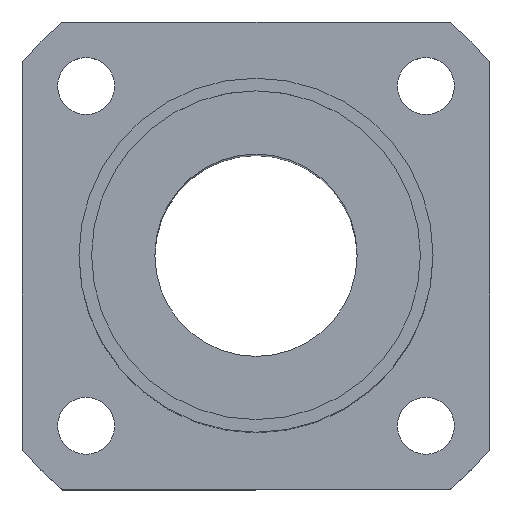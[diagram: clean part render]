
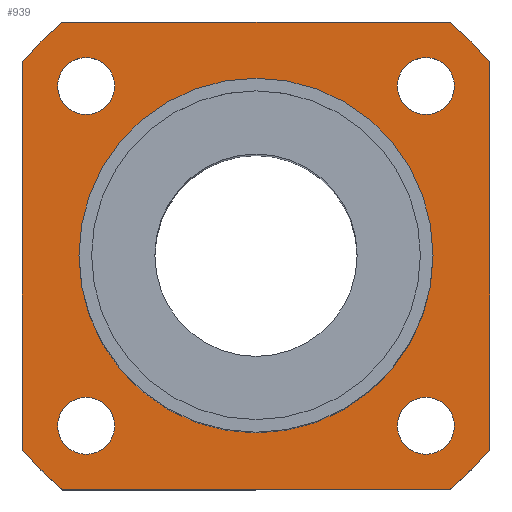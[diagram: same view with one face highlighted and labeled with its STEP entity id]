
A CAD part, top view. The second image highlights one B-rep face of the part: STEP entity #939.
In plain terms, the highlighted planar face has unit normal (0, 0, 1).
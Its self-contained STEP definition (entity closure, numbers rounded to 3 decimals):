
#49=CARTESIAN_POINT('',(-16.58,9.934,38.0));
#50=VERTEX_POINT('',#49);
#59=CARTESIAN_POINT('',(11.42,9.934,38.));
#60=VERTEX_POINT('',#59);
#61=CARTESIAN_POINT('',(-2.58,9.934,38.));
#62=DIRECTION('',(0.0,0.0,1.0));
#63=DIRECTION('',(-1.0,0.0,0.0));
#64=AXIS2_PLACEMENT_3D('',#61,#62,#63);
#65=CIRCLE('',#64,14.);
#66=EDGE_CURVE('',#50,#60,#65,.T.);
#259=CARTESIAN_POINT('',(-13.765,23.369,38.));
#260=VERTEX_POINT('',#259);
#269=CARTESIAN_POINT('',(-18.265,23.369,38.));
#270=VERTEX_POINT('',#269);
#271=CARTESIAN_POINT('',(-16.015,23.369,38.));
#272=DIRECTION('',(0.0,0.0,-1.0));
#273=DIRECTION('',(1.0,0.0,0.0));
#274=AXIS2_PLACEMENT_3D('',#271,#272,#273);
#275=CIRCLE('',#274,2.25);
#276=EDGE_CURVE('',#270,#260,#275,.T.);
#343=CARTESIAN_POINT('',(10.855,21.119,38.));
#344=VERTEX_POINT('',#343);
#353=CARTESIAN_POINT('',(10.855,25.619,38.));
#354=VERTEX_POINT('',#353);
#355=CARTESIAN_POINT('',(10.855,23.369,38.));
#356=DIRECTION('',(0.0,0.0,-1.0));
#357=DIRECTION('',(0.0,-1.0,0.0));
#358=AXIS2_PLACEMENT_3D('',#355,#356,#357);
#359=CIRCLE('',#358,2.25);
#360=EDGE_CURVE('',#354,#344,#359,.T.);
#427=CARTESIAN_POINT('',(8.605,-3.501,38.));
#428=VERTEX_POINT('',#427);
#437=CARTESIAN_POINT('',(13.105,-3.501,38.));
#438=VERTEX_POINT('',#437);
#439=CARTESIAN_POINT('',(10.855,-3.501,38.));
#440=DIRECTION('',(0.0,0.0,-1.0));
#441=DIRECTION('',(-1.0,0.0,0.0));
#442=AXIS2_PLACEMENT_3D('',#439,#440,#441);
#443=CIRCLE('',#442,2.25);
#444=EDGE_CURVE('',#438,#428,#443,.T.);
#511=CARTESIAN_POINT('',(-16.015,-1.251,38.));
#512=VERTEX_POINT('',#511);
#521=CARTESIAN_POINT('',(-16.015,-5.751,38.));
#522=VERTEX_POINT('',#521);
#523=CARTESIAN_POINT('',(-16.015,-3.501,38.));
#524=DIRECTION('',(0.0,0.0,-1.0));
#525=DIRECTION('',(0.0,1.0,0.0));
#526=AXIS2_PLACEMENT_3D('',#523,#524,#525);
#527=CIRCLE('',#526,2.25);
#528=EDGE_CURVE('',#522,#512,#527,.T.);
#642=CARTESIAN_POINT('',(-16.015,-3.501,38.));
#643=DIRECTION('',(0.0,0.0,-1.0));
#644=DIRECTION('',(0.0,1.0,0.0));
#645=AXIS2_PLACEMENT_3D('',#642,#643,#644);
#646=CIRCLE('',#645,2.25);
#647=EDGE_CURVE('',#512,#522,#646,.T.);
#704=CARTESIAN_POINT('',(10.855,-3.501,38.));
#705=DIRECTION('',(0.0,0.0,-1.0));
#706=DIRECTION('',(-1.0,0.0,0.0));
#707=AXIS2_PLACEMENT_3D('',#704,#705,#706);
#708=CIRCLE('',#707,2.25);
#709=EDGE_CURVE('',#428,#438,#708,.T.);
#766=CARTESIAN_POINT('',(10.855,23.369,38.));
#767=DIRECTION('',(0.0,0.0,-1.0));
#768=DIRECTION('',(0.0,-1.0,0.0));
#769=AXIS2_PLACEMENT_3D('',#766,#767,#768);
#770=CIRCLE('',#769,2.25);
#771=EDGE_CURVE('',#344,#354,#770,.T.);
#828=CARTESIAN_POINT('',(-16.015,23.369,38.));
#829=DIRECTION('',(0.0,0.0,-1.0));
#830=DIRECTION('',(1.0,0.0,0.0));
#831=AXIS2_PLACEMENT_3D('',#828,#829,#830);
#832=CIRCLE('',#831,2.25);
#833=EDGE_CURVE('',#260,#270,#832,.T.);
#838=CARTESIAN_POINT('',(-2.58,9.934,38.));
#839=DIRECTION('',(0.0,0.0,1.0));
#840=DIRECTION('',(1.0,0.0,0.0));
#841=AXIS2_PLACEMENT_3D('',#838,#839,#840);
#842=PLANE('',#841);
#843=CARTESIAN_POINT('',(12.709,-8.566,38.0));
#844=VERTEX_POINT('',#843);
#845=CARTESIAN_POINT('',(-17.868,-8.566,38.0));
#846=VERTEX_POINT('',#845);
#847=CARTESIAN_POINT('',(12.709,-8.566,38.0));
#848=DIRECTION('',(-1.0,0.0,0.0));
#849=VECTOR('',#848,30.578);
#850=LINE('',#847,#849);
#851=EDGE_CURVE('',#844,#846,#850,.T.);
#852=ORIENTED_EDGE('',*,*,#851,.F.);
#853=CARTESIAN_POINT('',(15.92,-5.355,38.0));
#854=VERTEX_POINT('',#853);
#855=CARTESIAN_POINT('',(-2.58,9.934,38.0));
#856=DIRECTION('',(0.0,0.0,-1.));
#857=DIRECTION('',(-0.637,0.771,0.0));
#858=AXIS2_PLACEMENT_3D('',#855,#856,#857);
#859=CIRCLE('',#858,24.);
#860=EDGE_CURVE('',#854,#844,#859,.T.);
#861=ORIENTED_EDGE('',*,*,#860,.F.);
#862=CARTESIAN_POINT('',(15.92,25.223,38.0));
#863=VERTEX_POINT('',#862);
#864=CARTESIAN_POINT('',(15.92,25.223,38.0));
#865=DIRECTION('',(0.0,-1.0,0.0));
#866=VECTOR('',#865,30.578);
#867=LINE('',#864,#866);
#868=EDGE_CURVE('',#863,#854,#867,.T.);
#869=ORIENTED_EDGE('',*,*,#868,.F.);
#870=CARTESIAN_POINT('',(12.709,28.434,38.0));
#871=VERTEX_POINT('',#870);
#872=CARTESIAN_POINT('',(-2.58,9.934,38.0));
#873=DIRECTION('',(0.0,0.0,-1.0));
#874=DIRECTION('',(-0.771,-0.637,0.0));
#875=AXIS2_PLACEMENT_3D('',#872,#873,#874);
#876=CIRCLE('',#875,24.);
#877=EDGE_CURVE('',#871,#863,#876,.T.);
#878=ORIENTED_EDGE('',*,*,#877,.F.);
#879=CARTESIAN_POINT('',(-17.868,28.434,38.0));
#880=VERTEX_POINT('',#879);
#881=CARTESIAN_POINT('',(-17.868,28.434,38.0));
#882=DIRECTION('',(1.0,0.0,0.0));
#883=VECTOR('',#882,30.578);
#884=LINE('',#881,#883);
#885=EDGE_CURVE('',#880,#871,#884,.T.);
#886=ORIENTED_EDGE('',*,*,#885,.F.);
#887=CARTESIAN_POINT('',(-21.08,25.223,38.0));
#888=VERTEX_POINT('',#887);
#889=CARTESIAN_POINT('',(-2.58,9.934,38.0));
#890=DIRECTION('',(0.0,0.0,-1.0));
#891=DIRECTION('',(0.637,-0.771,0.0));
#892=AXIS2_PLACEMENT_3D('',#889,#890,#891);
#893=CIRCLE('',#892,24.);
#894=EDGE_CURVE('',#888,#880,#893,.T.);
#895=ORIENTED_EDGE('',*,*,#894,.F.);
#896=CARTESIAN_POINT('',(-21.08,-5.355,38.0));
#897=VERTEX_POINT('',#896);
#898=CARTESIAN_POINT('',(-21.08,-5.355,38.0));
#899=DIRECTION('',(0.0,1.0,0.0));
#900=VECTOR('',#899,30.578);
#901=LINE('',#898,#900);
#902=EDGE_CURVE('',#897,#888,#901,.T.);
#903=ORIENTED_EDGE('',*,*,#902,.F.);
#904=CARTESIAN_POINT('',(-2.58,9.934,38.0));
#905=DIRECTION('',(0.0,0.0,-1.));
#906=DIRECTION('',(0.771,0.637,0.0));
#907=AXIS2_PLACEMENT_3D('',#904,#905,#906);
#908=CIRCLE('',#907,24.);
#909=EDGE_CURVE('',#846,#897,#908,.T.);
#910=ORIENTED_EDGE('',*,*,#909,.F.);
#911=EDGE_LOOP('',(#852,#861,#869,#878,#886,#895,#903,#910));
#912=FACE_OUTER_BOUND('',#911,.T.);
#913=ORIENTED_EDGE('',*,*,#528,.T.);
#914=ORIENTED_EDGE('',*,*,#647,.T.);
#915=EDGE_LOOP('',(#913,#914));
#916=FACE_BOUND('',#915,.T.);
#917=ORIENTED_EDGE('',*,*,#444,.T.);
#918=ORIENTED_EDGE('',*,*,#709,.T.);
#919=EDGE_LOOP('',(#917,#918));
#920=FACE_BOUND('',#919,.T.);
#921=ORIENTED_EDGE('',*,*,#360,.T.);
#922=ORIENTED_EDGE('',*,*,#771,.T.);
#923=EDGE_LOOP('',(#921,#922));
#924=FACE_BOUND('',#923,.T.);
#925=ORIENTED_EDGE('',*,*,#276,.T.);
#926=ORIENTED_EDGE('',*,*,#833,.T.);
#927=EDGE_LOOP('',(#925,#926));
#928=FACE_BOUND('',#927,.T.);
#929=CARTESIAN_POINT('',(-2.58,9.934,38.));
#930=DIRECTION('',(0.0,0.0,1.0));
#931=DIRECTION('',(-1.0,0.0,0.0));
#932=AXIS2_PLACEMENT_3D('',#929,#930,#931);
#933=CIRCLE('',#932,14.);
#934=EDGE_CURVE('',#60,#50,#933,.T.);
#935=ORIENTED_EDGE('',*,*,#934,.F.);
#936=ORIENTED_EDGE('',*,*,#66,.F.);
#937=EDGE_LOOP('',(#935,#936));
#938=FACE_BOUND('',#937,.T.);
#939=ADVANCED_FACE('',(#912,#916,#920,#924,#928,#938),#842,.T.);
